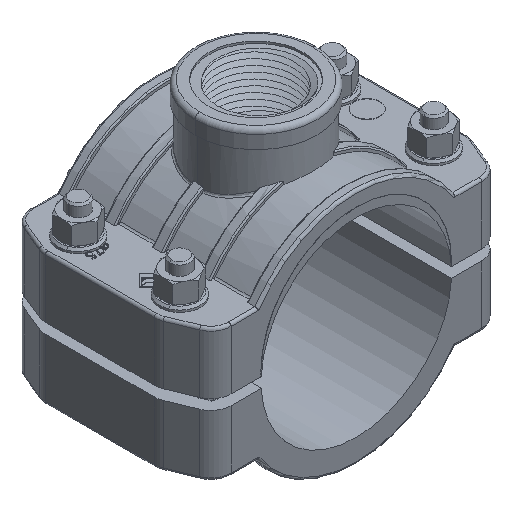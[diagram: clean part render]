
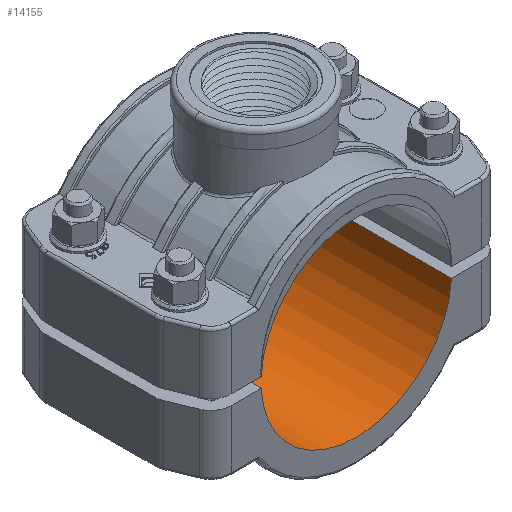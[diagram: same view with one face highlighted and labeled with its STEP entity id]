
A CAD part, isometric view. The second image highlights one B-rep face of the part: STEP entity #14155.
In plain terms, the highlighted cylindrical face has radius 37.5 mm (diameter 75 mm), a partial arc.
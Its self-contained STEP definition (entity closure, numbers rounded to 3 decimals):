
#520 = CARTESIAN_POINT ( 'NONE',  ( 0., 39.5, 0. ) ) ;
#630 = ORIENTED_EDGE ( 'NONE', *, *, #27387, .F. ) ;
#669 = DIRECTION ( 'NONE',  ( 0., 1., 0. ) ) ;
#724 = CARTESIAN_POINT ( 'NONE',  ( 0., -39.501, 0. ) ) ;
#1849 = CARTESIAN_POINT ( 'NONE',  ( -37.447, 39.5, -2. ) ) ;
#1936 = VERTEX_POINT ( 'NONE', #30216 ) ;
#2318 = DIRECTION ( 'NONE',  ( 0., 1., 0. ) ) ;
#2920 = CARTESIAN_POINT ( 'NONE',  ( 37.447, -39.501, -2. ) ) ;
#3481 = EDGE_CURVE ( 'NONE', #28719, #1936, #26780, .T. ) ;
#4153 = CARTESIAN_POINT ( 'NONE',  ( -37.447, -39.5, -2. ) ) ;
#5087 = FACE_OUTER_BOUND ( 'NONE', #22080, .T. ) ;
#5407 = DIRECTION ( 'NONE',  ( 0., 1., 0. ) ) ;
#6412 = ORIENTED_EDGE ( 'NONE', *, *, #3481, .T. ) ;
#7525 = ORIENTED_EDGE ( 'NONE', *, *, #28714, .F. ) ;
#7596 = CARTESIAN_POINT ( 'NONE',  ( 37.447, -39.5, -2. ) ) ;
#7818 = ORIENTED_EDGE ( 'NONE', *, *, #27987, .T. ) ;
#8010 = DIRECTION ( 'NONE',  ( -1., 0., 0. ) ) ;
#8662 = CIRCLE ( 'NONE', #14160, 37.5 ) ;
#9838 = VERTEX_POINT ( 'NONE', #1849 ) ;
#14155 = ADVANCED_FACE ( 'NONE', ( #5087 ), #14892, .F. ) ;
#14160 = AXIS2_PLACEMENT_3D ( 'NONE', #22485, #19843, #29496 ) ;
#14892 = CYLINDRICAL_SURFACE ( 'NONE', #26922, 37.5 ) ;
#16661 = CARTESIAN_POINT ( 'NONE',  ( -37.447, -39.501, -2. ) ) ;
#18659 = AXIS2_PLACEMENT_3D ( 'NONE', #520, #669, #23918 ) ;
#19843 = DIRECTION ( 'NONE',  ( 0., 1., 0. ) ) ;
#20149 = CIRCLE ( 'NONE', #18659, 37.5 ) ;
#22080 = EDGE_LOOP ( 'NONE', ( #6412, #7818, #7525, #630 ) ) ;
#22485 = CARTESIAN_POINT ( 'NONE',  ( 0., -39.5, 0. ) ) ;
#23183 = VERTEX_POINT ( 'NONE', #4153 ) ;
#23918 = DIRECTION ( 'NONE',  ( -1., 0., 0. ) ) ;
#24056 = VECTOR ( 'NONE', #5407, 1000. ) ;
#24128 = DIRECTION ( 'NONE',  ( 0., 1., 0. ) ) ;
#26477 = LINE ( 'NONE', #16661, #27655 ) ;
#26780 = LINE ( 'NONE', #2920, #24056 ) ;
#26922 = AXIS2_PLACEMENT_3D ( 'NONE', #724, #24128, #8010 ) ;
#27387 = EDGE_CURVE ( 'NONE', #28719, #23183, #8662, .T. ) ;
#27655 = VECTOR ( 'NONE', #2318, 1000. ) ;
#27987 = EDGE_CURVE ( 'NONE', #1936, #9838, #20149, .T. ) ;
#28714 = EDGE_CURVE ( 'NONE', #23183, #9838, #26477, .T. ) ;
#28719 = VERTEX_POINT ( 'NONE', #7596 ) ;
#29496 = DIRECTION ( 'NONE',  ( 1., 0., 0. ) ) ;
#30216 = CARTESIAN_POINT ( 'NONE',  ( 37.447, 39.5, -2. ) ) ;
